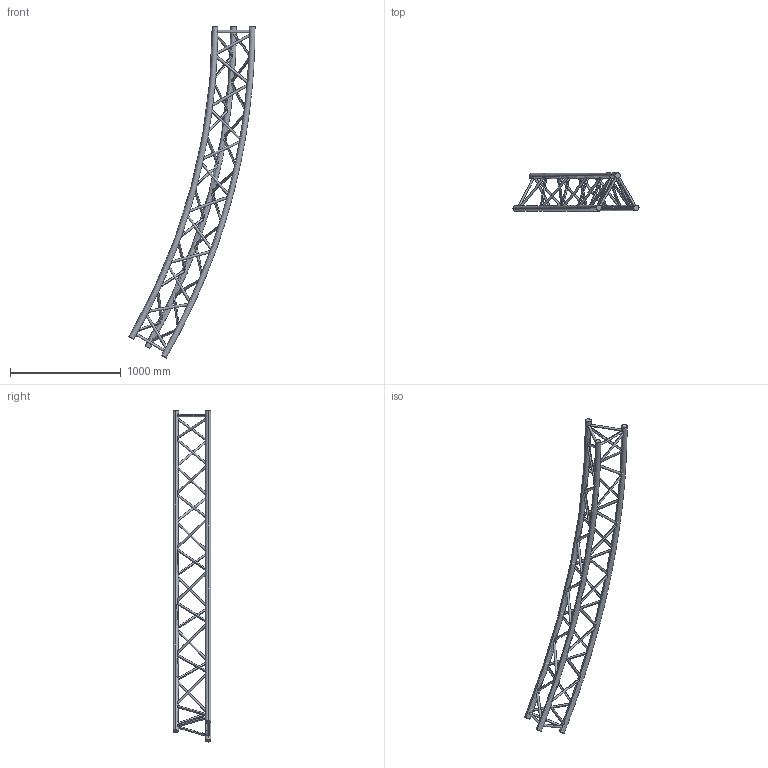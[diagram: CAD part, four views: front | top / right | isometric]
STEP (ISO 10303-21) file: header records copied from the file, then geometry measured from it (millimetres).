
FILE_DESCRIPTION (( 'STEP AP203' ), '1' );
FILE_NAME ('SXC391200PH.STEP', '2009-10-21T11:29:29', ( 'CEDIA' ), ( 'CEDIA INDUSTRIE' ), 'SwSTEP 2.0', 'SolidWorks 2009', '' );
FILE_SCHEMA (( 'CONFIG_CONTROL_DESIGN' ));
Length unit declared in the file: millimetre
Products named in the file (1): SXC391200PH
Bounding box: 1139 x 341.85 x 3000 mm (x, y, z)
Volume: 22443989.9 mm3; surface area: 2323020.4 mm2
Topology: 1 solids, 1 shells, 96 faces, 298 edges, 180 vertices
Faces by surface type: cylinder 84, torus 6, plane 6
Entity records: 11316 total; most frequent: CARTESIAN_POINT 8770, ORIENTED_EDGE 596, DIRECTION 370, EDGE_CURVE 298, VERTEX_POINT 180, B_SPLINE_CURVE_WITH_KNOTS 168, EDGE_LOOP 152, AXIS2_PLACEMENT_3D 143
